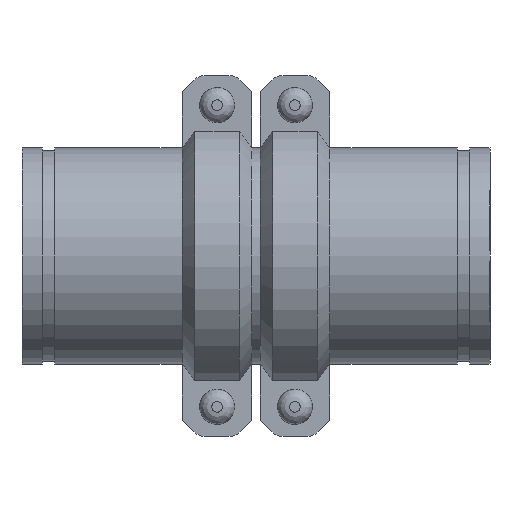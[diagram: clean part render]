
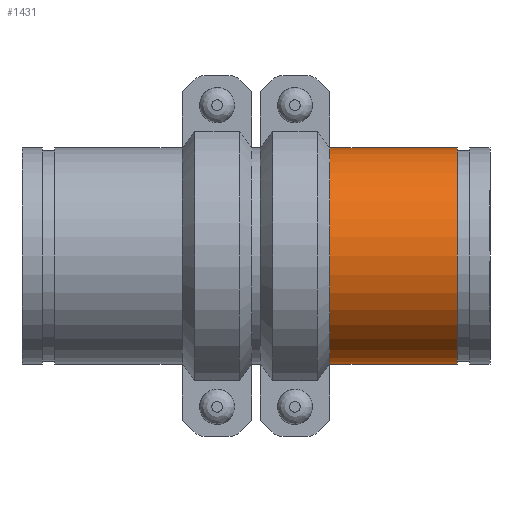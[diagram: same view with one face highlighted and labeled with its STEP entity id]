
A CAD part, front view. The second image highlights one B-rep face of the part: STEP entity #1431.
In plain terms, the highlighted cylindrical face has radius 84.138 mm (diameter 168.275 mm), a full revolution.
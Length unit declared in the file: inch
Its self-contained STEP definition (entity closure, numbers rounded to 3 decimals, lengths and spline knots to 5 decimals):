
#59=LINE('',#2304,#152);
#152=VECTOR('',#1861,3.3125);
#245=CYLINDRICAL_SURFACE('',#1647,3.3125);
#302=FACE_OUTER_BOUND('',#387,.T.);
#387=EDGE_LOOP('',(#940,#941,#942,#943,#944,#945));
#497=CIRCLE('',#1645,3.3125);
#498=CIRCLE('',#1646,3.3125);
#499=CIRCLE('',#1648,3.3125);
#500=CIRCLE('',#1649,3.3125);
#589=VERTEX_POINT('',#2295);
#590=VERTEX_POINT('',#2296);
#591=VERTEX_POINT('',#2300);
#592=VERTEX_POINT('',#2301);
#730=EDGE_CURVE('',#589,#590,#497,.T.);
#731=EDGE_CURVE('',#590,#589,#498,.T.);
#732=EDGE_CURVE('',#591,#592,#499,.T.);
#733=EDGE_CURVE('',#592,#591,#500,.T.);
#734=EDGE_CURVE('',#592,#590,#59,.T.);
#940=ORIENTED_EDGE('',*,*,#732,.F.);
#941=ORIENTED_EDGE('',*,*,#733,.F.);
#942=ORIENTED_EDGE('',*,*,#734,.T.);
#943=ORIENTED_EDGE('',*,*,#731,.T.);
#944=ORIENTED_EDGE('',*,*,#730,.T.);
#945=ORIENTED_EDGE('',*,*,#734,.F.);
#1431=ADVANCED_FACE('',(#302),#245,.T.);
#1645=AXIS2_PLACEMENT_3D('',#2297,#1851,#1852);
#1646=AXIS2_PLACEMENT_3D('',#2298,#1853,#1854);
#1647=AXIS2_PLACEMENT_3D('',#2299,#1855,#1856);
#1648=AXIS2_PLACEMENT_3D('',#2302,#1857,#1858);
#1649=AXIS2_PLACEMENT_3D('',#2303,#1859,#1860);
#1851=DIRECTION('center_axis',(-1.,0.,0.));
#1852=DIRECTION('ref_axis',(0.,0.,1.));
#1853=DIRECTION('center_axis',(-1.,0.,0.));
#1854=DIRECTION('ref_axis',(0.,0.,1.));
#1855=DIRECTION('center_axis',(-1.,0.,0.));
#1856=DIRECTION('ref_axis',(0.,1.,0.));
#1857=DIRECTION('center_axis',(-1.,0.,0.));
#1858=DIRECTION('ref_axis',(0.,0.,1.));
#1859=DIRECTION('center_axis',(-1.,0.,0.));
#1860=DIRECTION('ref_axis',(0.,0.,1.));
#1861=DIRECTION('',(1.,0.,0.));
#2295=CARTESIAN_POINT('',(1.985,3.3125,0.));
#2296=CARTESIAN_POINT('',(1.985,-3.3125,0.));
#2297=CARTESIAN_POINT('Origin',(1.985,0.,0.));
#2298=CARTESIAN_POINT('Origin',(1.985,0.,0.));
#2299=CARTESIAN_POINT('Origin',(0.,0.,
0.));
#2300=CARTESIAN_POINT('',(-1.985,3.3125,0.));
#2301=CARTESIAN_POINT('',(-1.985,-3.3125,0.));
#2302=CARTESIAN_POINT('Origin',(-1.985,0.,0.));
#2303=CARTESIAN_POINT('Origin',(-1.985,0.,0.));
#2304=CARTESIAN_POINT('',(0.,-3.3125,0.));
